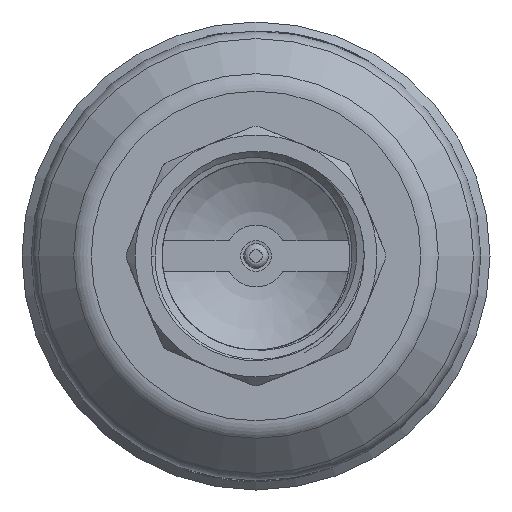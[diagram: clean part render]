
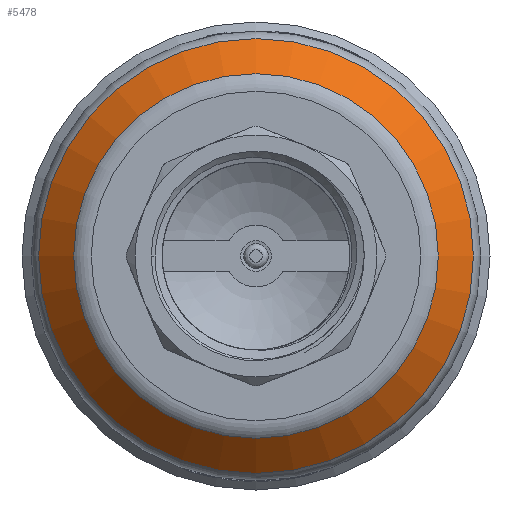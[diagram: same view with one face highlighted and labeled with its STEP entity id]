
A CAD part, left-side view. The second image highlights one B-rep face of the part: STEP entity #5478.
In plain terms, the highlighted conical face has half-angle 45 degrees and reference radius 32.246 mm.
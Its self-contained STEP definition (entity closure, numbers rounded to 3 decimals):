
#298=CONICAL_SURFACE('',#5938,32.246,0.785);
#568=FACE_OUTER_BOUND('',#1138,.T.);
#752=CIRCLE('',#5934,35.078);
#753=CIRCLE('',#5935,35.078);
#755=CIRCLE('',#5937,35.078);
#756=CIRCLE('',#5939,29.414);
#757=CIRCLE('',#5940,29.414);
#758=CIRCLE('',#5941,29.414);
#1138=EDGE_LOOP('',(#4939,#4940,#4941,#4942,#4943,#4944,#4945,#4946));
#1707=LINE('',#15049,#2027);
#2027=VECTOR('',#7164,32.246);
#2559=VERTEX_POINT('',#15035);
#2560=VERTEX_POINT('',#15036);
#2561=VERTEX_POINT('',#15038);
#2562=VERTEX_POINT('',#15043);
#2563=VERTEX_POINT('',#15044);
#2564=VERTEX_POINT('',#15046);
#3377=EDGE_CURVE('',#2559,#2560,#752,.T.);
#3378=EDGE_CURVE('',#2561,#2559,#753,.T.);
#3380=EDGE_CURVE('',#2560,#2561,#755,.T.);
#3381=EDGE_CURVE('',#2562,#2563,#756,.T.);
#3382=EDGE_CURVE('',#2564,#2562,#757,.T.);
#3383=EDGE_CURVE('',#2563,#2564,#758,.T.);
#3384=EDGE_CURVE('',#2563,#2560,#1707,.T.);
#4939=ORIENTED_EDGE('',*,*,#3381,.F.);
#4940=ORIENTED_EDGE('',*,*,#3382,.F.);
#4941=ORIENTED_EDGE('',*,*,#3383,.F.);
#4942=ORIENTED_EDGE('',*,*,#3384,.T.);
#4943=ORIENTED_EDGE('',*,*,#3380,.T.);
#4944=ORIENTED_EDGE('',*,*,#3378,.T.);
#4945=ORIENTED_EDGE('',*,*,#3377,.T.);
#4946=ORIENTED_EDGE('',*,*,#3384,.F.);
#5478=ADVANCED_FACE('',(#568),#298,.T.);
#5934=AXIS2_PLACEMENT_3D('',#15037,#7148,#7149);
#5935=AXIS2_PLACEMENT_3D('',#15039,#7150,#7151);
#5937=AXIS2_PLACEMENT_3D('',#15041,#7154,#7155);
#5938=AXIS2_PLACEMENT_3D('',#15042,#7156,#7157);
#5939=AXIS2_PLACEMENT_3D('',#15045,#7158,#7159);
#5940=AXIS2_PLACEMENT_3D('',#15047,#7160,#7161);
#5941=AXIS2_PLACEMENT_3D('',#15048,#7162,#7163);
#7148=DIRECTION('center_axis',(-1.,0.,0.));
#7149=DIRECTION('ref_axis',(0.,0.,1.));
#7150=DIRECTION('center_axis',(-1.,0.,0.));
#7151=DIRECTION('ref_axis',(0.,0.,1.));
#7154=DIRECTION('center_axis',(-1.,0.,0.));
#7155=DIRECTION('ref_axis',(0.,0.,1.));
#7156=DIRECTION('center_axis',(1.,0.,0.));
#7157=DIRECTION('ref_axis',(0.,-1.,0.));
#7158=DIRECTION('center_axis',(-1.,0.,0.));
#7159=DIRECTION('ref_axis',(0.,0.,1.));
#7160=DIRECTION('center_axis',(-1.,0.,0.));
#7161=DIRECTION('ref_axis',(0.,0.,1.));
#7162=DIRECTION('center_axis',(-1.,0.,0.));
#7163=DIRECTION('ref_axis',(0.,0.,1.));
#7164=DIRECTION('',(0.707,0.707,0.));
#15035=CARTESIAN_POINT('',(-20.98,-35.078,0.));
#15036=CARTESIAN_POINT('',(-20.98,35.078,0.));
#15037=CARTESIAN_POINT('Origin',(-20.98,0.,
0.));
#15038=CARTESIAN_POINT('',(-20.98,0.,-35.078));
#15039=CARTESIAN_POINT('Origin',(-20.98,0.,
0.));
#15041=CARTESIAN_POINT('Origin',(-20.98,0.,
0.));
#15042=CARTESIAN_POINT('Origin',(-23.813,0.,
0.));
#15043=CARTESIAN_POINT('',(-26.645,-29.414,0.));
#15044=CARTESIAN_POINT('',(-26.645,29.414,0.));
#15045=CARTESIAN_POINT('Origin',(-26.645,0.,
0.));
#15046=CARTESIAN_POINT('',(-26.645,0.,-29.414));
#15047=CARTESIAN_POINT('Origin',(-26.645,0.,
0.));
#15048=CARTESIAN_POINT('Origin',(-26.645,0.,
0.));
#15049=CARTESIAN_POINT('',(-23.813,32.246,0.));
